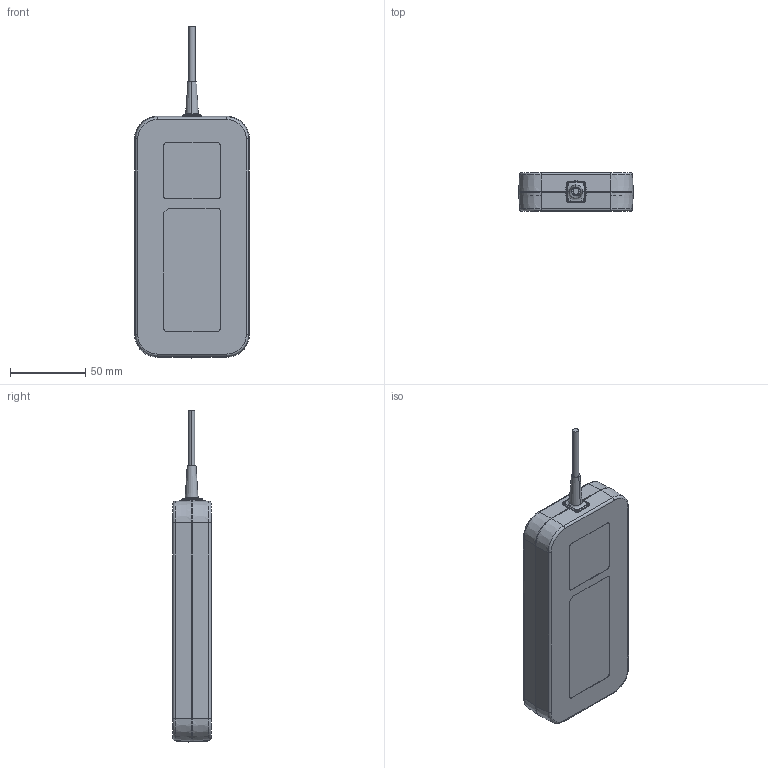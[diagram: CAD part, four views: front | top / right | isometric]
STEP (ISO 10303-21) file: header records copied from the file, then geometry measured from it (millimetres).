
FILE_DESCRIPTION((''),'2;1');
FILE_NAME('ADT-150A24AA_H-A_3D_ASM_ASM','2020-01-21T',('EUNICE.HUANG'),(''),'PRO/ENGINEER BY PARAMETRIC TECHNOLOGY CORPORATION, 2015240','PRO/ENGINEER BY PARAMETRIC TECHNOLOGY CORPORATION, 2015240','');
FILE_SCHEMA(('CONFIG_CONTROL_DESIGN'));
Length unit declared in the file: millimetre
Products named in the file (7): SR_120W-1__W___ANY_1; C6_SOCKET_0820_2; 330M0184PA00_3; 330M0185PA03_11; ADP150W_ASM_ASM_51_ASM_ASM; ADP150W_ASM_ASM_ASM_ASM; ADT-150A24AA_H-A_3D_ASM_ASM
Assembly tree (6 placements, depth 4):
  ADT-150A24AA_H-A_3D_ASM_ASM
    ADP150W_ASM_ASM_ASM_ASM
      ADP150W_ASM_ASM_51_ASM_ASM
        SR_120W-1__W___ANY_1
        C6_SOCKET_0820_2
        330M0184PA00_3
        330M0185PA03_11
Bounding box: 76.2 x 25.4 x 220.57 mm (x, y, z)
Volume: 69449.3 mm3; surface area: 75955.3 mm2
Topology: 4 solids, 4 shells, 849 faces, 2164 edges, 1365 vertices
Faces by surface type: plane 513, cylinder 202, cone 44, torus 36, bspline 35, sphere 9, extrusion 8, revolution 2
Entity records: 27154 total; most frequent: CARTESIAN_POINT 6587, ORIENTED_EDGE 4308, DIRECTION 4110, EDGE_CURVE 2154, VECTOR 1548, LINE 1540, VERTEX_POINT 1365, AXIS2_PLACEMENT_3D 1280
